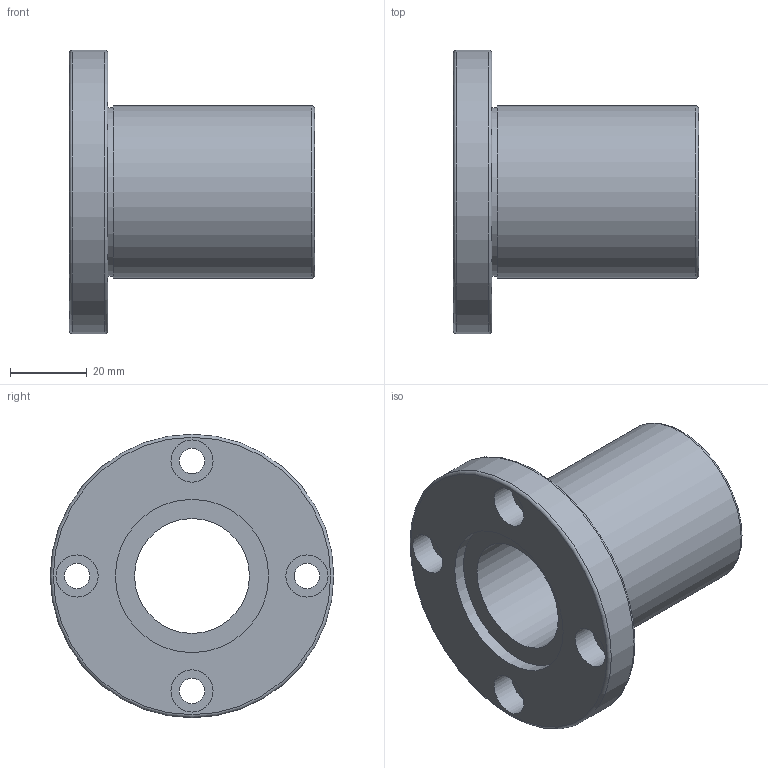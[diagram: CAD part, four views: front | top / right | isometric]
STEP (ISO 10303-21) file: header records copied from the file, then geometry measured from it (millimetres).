
FILE_DESCRIPTION( ( 'Unknown' ), '1' );
FILE_NAME( 'D:/累诀/己绕皋墨飘肺葱胶/11-04-06_档搁累己/01_府聪绢何教/LMF/LMF 30.stp', 'Unknown', ( 'Unknown' ), ( 'Unknown' ), 'PSStep 11.0', 'Unknown', ' ' );
FILE_SCHEMA( ( 'AUTOMOTIVE_DESIGN { 1 0 10303 214 1 1 1 1 }' ) );
Length unit declared in the file: millimetre
Products named in the file (1): 1
Bounding box: 64 x 74 x 74 mm (x, y, z)
Volume: 76996.7 mm3; surface area: 24220.9 mm2
Topology: 1 solids, 1 shells, 27 faces, 52 edges, 35 vertices
Faces by surface type: cylinder 14, plane 10, torus 3
Full cylindrical faces by diameter (mm): 6.6 x4, 11 x4, 30 x1, 40 x2, 44 x1, 45 x1, 74 x1
Entity records: 836 total; most frequent: DIRECTION 118, CARTESIAN_POINT 90, EDGE_LOOP 62, ORIENTED_EDGE 62, AXIS2_PLACEMENT_3D 59, FACE_OUTER_BOUND 44, EDGE_CURVE 31, VERTEX_POINT 31
